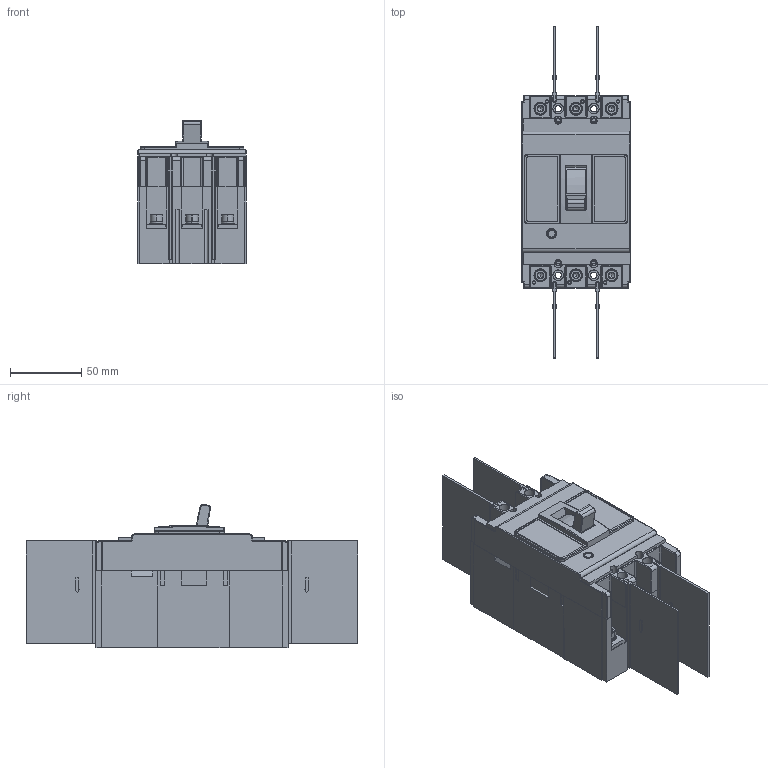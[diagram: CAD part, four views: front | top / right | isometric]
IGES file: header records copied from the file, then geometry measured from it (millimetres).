
Start section: SolidWorks IGES file using analytic representation for surfaces
Global section: file name: \\Brjgs100\dfsweg\GROUPS\BR_SC_JGS_WA_TECNICO\ENG\Usuarios\Rodrigob\conversão\Disjuntor de Caixa Moldada\Produto\DWP\DWP63\DWP63.IGS; native system: SolidWorks 2016; preprocessor: SolidWorks 2016; author: rodrigob; date: 180718.075755; units: millimetre
Bounding box: 76 x 233 x 100.74 mm (x, y, z)
Surface area: 248276.5 mm2 (no closed solid volume)
Topology: 0 solids, 0 shells, 2189 faces, 23689 edges, 23603 vertices
Faces by surface type: bspline 1376, revolution 813
